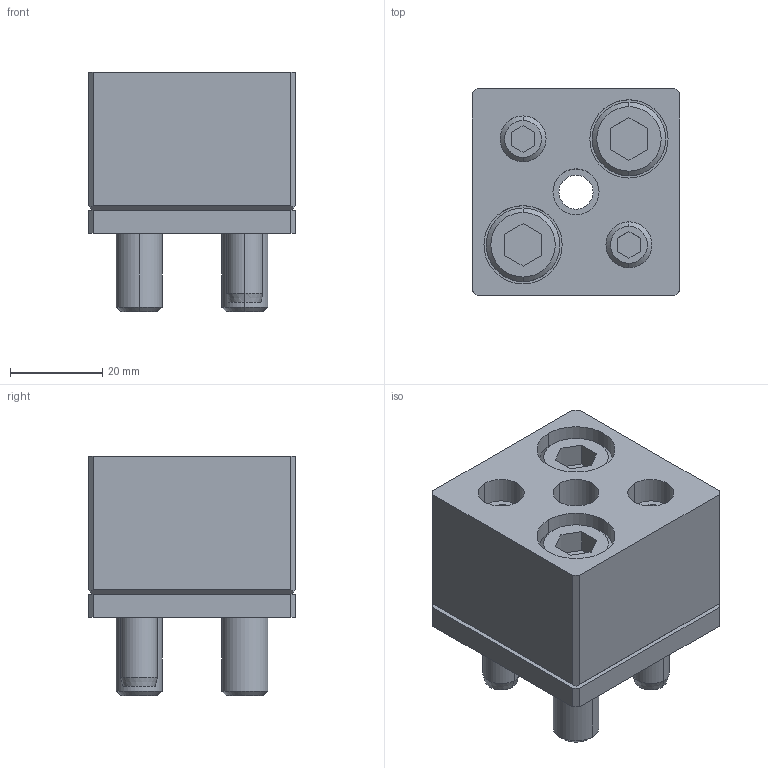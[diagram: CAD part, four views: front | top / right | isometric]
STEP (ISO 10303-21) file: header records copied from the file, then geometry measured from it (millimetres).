
FILE_DESCRIPTION(/* description */ (''),/* implementation_level */ '2;1');
FILE_NAME(/* name */ '3d_sr-ad10_02891_r00.stp',/* time_stamp */ '2011-01-10T14:10:01+09:00',/* author */ ('MISUMI'),/* organization */ (''),/* preprocessor_version */ 'ST-DEVELOPER v11',/* originating_system */ 'UGS - NX 5.0',/* authorisation */ '');
FILE_SCHEMA (('CONFIG_CONTROL_DESIGN'));
Length unit declared in the file: millimetre
Products named in the file (1): 3d_sr-ad10_02891_r00
Bounding box: 45 x 45 x 52 mm (x, y, z)
Volume: 70111.9 mm3; surface area: 25273.4 mm2
Topology: 8 solids, 8 shells, 155 faces, 346 edges, 222 vertices
Faces by surface type: plane 77, cylinder 52, cone 26
Entity records: 4440 total; most frequent: DIRECTION 784, CARTESIAN_POINT 766, ORIENTED_EDGE 692, EDGE_CURVE 346, AXIS2_PLACEMENT_3D 286, VERTEX_POINT 222, LINE 212, VECTOR 212
